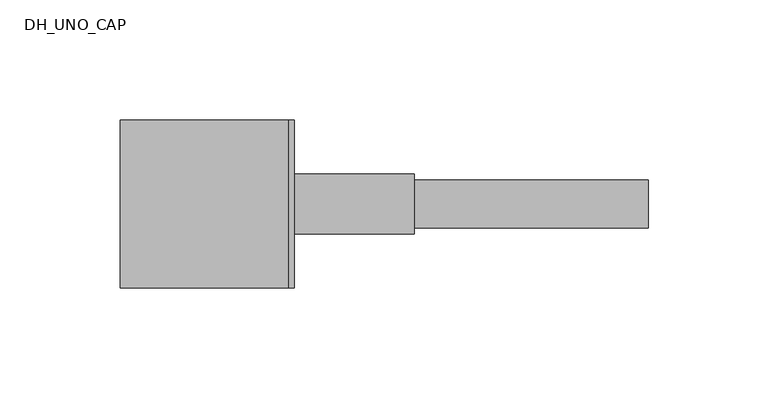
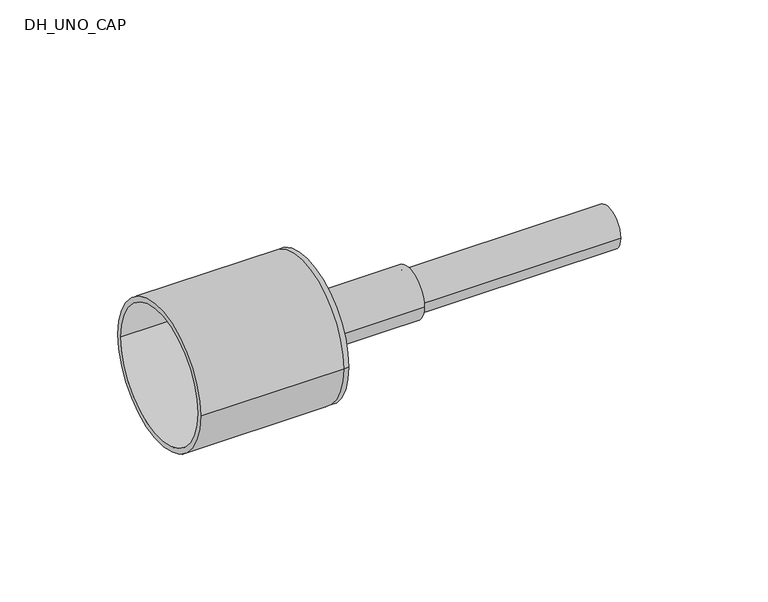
"""IFC4 building model written with IfcOpenShell, lengths in millimetres: pipe fitting geometry, DH_UNO_CAP : INSULPEX UNO 11 COOL - Rubber Cap."""

import ifcopenshell
import ifcopenshell.guid

model = None  # the IFC model being written
_history = None  # IfcOwnerHistory: only IFC2X3 demands one
_inside = {}  # id of a spatial element -> (the spatial element, [elements in it])
_under = {}  # id of a project, library or spatial element -> (it, [spatial elements below it])
_declared = {}  # id of a project -> (the project, [libraries it declares])
_typed = {}  # id of a type object -> (the type object, [elements of that type])
_made_of = {}  # id of a material, layer set ... -> (it, [elements and type objects made of it])


def new_model(schema):
    """Start an empty IFC model of exactly this schema.

    Asked for "IFC4X3", IfcOpenShell would pick the latest addendum, in which some entities
    have other attributes; the version numbers below select the first issue.
    IFC2X3 requires an IfcOwnerHistory on every rooted entity: one is made here for all.
    """
    global model, _history
    if schema == "IFC4X3":
        model = ifcopenshell.file(schema_version=(4, 3, 0, 0))
    else:
        model = ifcopenshell.file(schema=schema)
    _inside.clear()
    _under.clear()
    _declared.clear()
    _typed.clear()
    _made_of.clear()
    _history = None
    if model.schema == "IFC2X3":
        org = make("IfcOrganization", Name="unknown")
        user = make(
            "IfcPersonAndOrganization",
            ThePerson=make("IfcPerson", FamilyName="unknown"),
            TheOrganization=org,
        )
        app = make(
            "IfcApplication",
            ApplicationDeveloper=org,
            Version="unknown",
            ApplicationFullName="unknown",
            ApplicationIdentifier="unknown",
        )
        _history = make(
            "IfcOwnerHistory",
            OwningUser=user,
            OwningApplication=app,
            ChangeAction="ADDED",
            CreationDate=0,
        )
    return model


def make(cls, **values):
    """One entity of the class cls with the attributes given. An attribute that is None is left unset."""
    return model.create_entity(
        cls, **{name: value for name, value in values.items() if value is not None}
    )


def rooted(cls, **values):
    """An entity with a GlobalId (a new one), such as an element, a storey or a relation."""
    return make(cls, GlobalId=ifcopenshell.guid.new(), OwnerHistory=_history, **values)


def si_unit(unit_type, name, prefix=None):
    """IfcSIUnit, for example si_unit("LENGTHUNIT", "METRE", prefix="MILLI")."""
    return make("IfcSIUnit", UnitType=unit_type, Prefix=prefix, Name=name)


def assignment(units):
    """IfcUnitAssignment: the units of a project."""
    return None if units is None else make("IfcUnitAssignment", Units=units)


def point(xyz):
    """IfcCartesianPoint."""
    return None if xyz is None else make("IfcCartesianPoint", Coordinates=xyz)


def direction(xyz):
    """IfcDirection."""
    return None if xyz is None else make("IfcDirection", DirectionRatios=xyz)


def frame(location, z_axis=None, x_axis=None):
    """IfcAxis2Placement3D, a coordinate frame: its origin and axes. An axis left out is left unset."""
    return make(
        "IfcAxis2Placement3D",
        Location=point(location),
        Axis=direction(z_axis),
        RefDirection=direction(x_axis),
    )


def frame_2d(location, x_axis=None):
    """IfcAxis2Placement2D, a coordinate frame in the plane: its origin and x axis."""
    return make(
        "IfcAxis2Placement2D", Location=point(location), RefDirection=direction(x_axis)
    )


def origin():
    """The frame at (0, 0, 0) with its axes left unset."""
    return frame((0.0, 0.0, 0.0))


def origin_2d():
    """The frame at (0, 0) in the plane with its x axis left unset."""
    return frame_2d((0.0, 0.0))


def place(relative_to, where):
    """IfcLocalPlacement: puts the frame where relative to a parent placement (None: the world)."""
    return make(
        "IfcLocalPlacement", PlacementRelTo=relative_to, RelativePlacement=where
    )


def context(
    kind, dimensions, precision=None, world=None, true_north=None, identifier=None
):
    """IfcGeometricRepresentationContext, for example the 3D "Model" context."""
    return make(
        "IfcGeometricRepresentationContext",
        ContextIdentifier=identifier,
        ContextType=kind,
        CoordinateSpaceDimension=dimensions,
        Precision=precision,
        WorldCoordinateSystem=world,
        TrueNorth=true_north,
    )


def project(units=None, contexts=None):
    """IfcProject with its units and contexts."""
    return rooted(
        "IfcProject",
        Name="project",
        RepresentationContexts=contexts,
        UnitsInContext=assignment(units),
    )


def spatial(cls, under=None, at=None, **own):
    """A site, building, storey or space (cls), placed at a placement, below another one or the project."""
    s = rooted(cls, ObjectPlacement=at, **own)
    if under is not None:
        _under.setdefault(under.id(), (under, []))[1].append(s)
    return s


def polyline(points):
    """IfcPolyline through the points."""
    return make("IfcPolyline", Points=[point(p) for p in points])


def circle_curve(where, radius):
    """IfcCircle in the frame where."""
    return make("IfcCircle", Position=where, Radius=radius)


def trimmed(basis, trim1, trim2, sense, master):
    """IfcTrimmedCurve: the piece of a basis curve between two trims."""
    return make(
        "IfcTrimmedCurve",
        BasisCurve=basis,
        Trim1=trim1,
        Trim2=trim2,
        SenseAgreement=sense,
        MasterRepresentation=master,
    )


def segment(curve, same_sense, transition):
    """IfcCompositeCurveSegment."""
    return make(
        "IfcCompositeCurveSegment",
        Transition=transition,
        SameSense=same_sense,
        ParentCurve=curve,
    )


def composite_curve(segments, self_intersect=None):
    """IfcCompositeCurve: segments joined end to end."""
    return make("IfcCompositeCurve", Segments=segments, SelfIntersect=self_intersect)


def outline(outer, holes=None, kind="AREA"):
    """IfcArbitraryClosedProfileDef: a profile drawn as a closed curve; with holes, ...WithVoids."""
    if holes is None:
        return make("IfcArbitraryClosedProfileDef", ProfileType=kind, OuterCurve=outer)
    return make(
        "IfcArbitraryProfileDefWithVoids",
        ProfileType=kind,
        OuterCurve=outer,
        InnerCurves=holes,
    )


def extrude(swept, where, along, depth):
    """IfcExtrudedAreaSolid: the profile swept, set in the frame where, extruded along a direction by depth."""
    return make(
        "IfcExtrudedAreaSolid",
        SweptArea=swept,
        Position=where,
        ExtrudedDirection=direction(along),
        Depth=depth,
    )


def shape(context_of_items, identifier, shape_type, items):
    """IfcShapeRepresentation: the items that make up one representation, for example the "Body"."""
    return make(
        "IfcShapeRepresentation",
        ContextOfItems=context_of_items,
        RepresentationIdentifier=identifier,
        RepresentationType=shape_type,
        Items=items,
    )


def source(mapping_origin, context_of_items, identifier, shape_type, items):
    """IfcRepresentationMap: a shape defined once, which mapped items show again and again."""
    return make(
        "IfcRepresentationMap",
        MappingOrigin=mapping_origin,
        MappedRepresentation=shape(context_of_items, identifier, shape_type, items),
    )


def transform(
    local_origin,
    x_axis=None,
    y_axis=None,
    z_axis=None,
    scale=None,
    scale2=None,
    scale3=None,
    uniform=True,
):
    """IfcCartesianTransformationOperator3D, or its non-uniform kind. x_axis, y_axis, z_axis: its Axis1, 2, 3."""
    if uniform:
        return make(
            "IfcCartesianTransformationOperator3D",
            Axis1=direction(x_axis),
            Axis2=direction(y_axis),
            LocalOrigin=point(local_origin),
            Scale=scale,
            Axis3=direction(z_axis),
        )
    return make(
        "IfcCartesianTransformationOperator3DnonUniform",
        Axis1=direction(x_axis),
        Axis2=direction(y_axis),
        LocalOrigin=point(local_origin),
        Scale=scale,
        Axis3=direction(z_axis),
        Scale2=scale2,
        Scale3=scale3,
    )


def mapped(mapping_source, mapping_target):
    """IfcMappedItem: shows the shape of a source again, moved by a transform."""
    return make(
        "IfcMappedItem", MappingSource=mapping_source, MappingTarget=mapping_target
    )


def made_of(thing, what):
    """Note that an element or type object is made of a material, layer set ...; save() writes the relation."""
    if what is not None:
        _made_of.setdefault(what.id(), (what, []))[1].append(thing)
    return thing


def element(
    cls,
    number,
    at=None,
    inside=None,
    cuts=None,
    type_object=None,
    material=None,
    context=None,
    identifier="Body",
    shape_type=None,
    held_by="IfcProductDefinitionShape",
    body=None,
    shapes=None,
    **own,
):
    """One element of the class cls, such as IfcWall. Its Tag is "e" and its number.

    at: its placement. inside: the storey or other place that contains it. cuts: it is an
    opening in that element (IfcRelVoidsElement). A single representation is given by context,
    identifier, shape_type and body (its items); several are given by shapes. held_by: the class
    of the entity that holds the representations. save() writes the other relations.
    """
    e = rooted(cls, Tag="e%d" % number, ObjectPlacement=at, **own)
    if body is not None:
        shapes = [shape(context, identifier, shape_type, body)]
    if shapes is not None:
        e.Representation = make(held_by, Representations=shapes)
    if inside is not None:
        _inside.setdefault(inside.id(), (inside, []))[1].append(e)
    if cuts is not None:
        rooted(
            "IfcRelVoidsElement", RelatingBuildingElement=cuts, RelatedOpeningElement=e
        )
    if type_object is not None:
        _typed.setdefault(type_object.id(), (type_object, []))[1].append(e)
    return made_of(e, material)


def aggregate(whole, parts):
    """IfcRelAggregates: a whole, such as a stair, and the parts it consists of."""
    return rooted("IfcRelAggregates", RelatingObject=whole, RelatedObjects=parts)


def save(model, path):
    """Write the relations noted so far, then the file.

    IfcRelAggregates (storeys below a building ...), IfcRelContainedInSpatialStructure (elements
    in a storey), IfcRelDefinesByType, IfcRelAssociatesMaterial and IfcRelDeclares: one each for
    every whole, place, type object, material and project.
    """
    for whole, parts in _under.values():
        aggregate(whole, parts)
    for where, things in _inside.values():
        rooted(
            "IfcRelContainedInSpatialStructure",
            RelatedElements=things,
            RelatingStructure=where,
        )
    for kind, things in _typed.values():
        rooted("IfcRelDefinesByType", RelatedObjects=things, RelatingType=kind)
    for what, things in _made_of.values():
        rooted("IfcRelAssociatesMaterial", RelatedObjects=things, RelatingMaterial=what)
    for by, libraries in _declared.values():
        rooted("IfcRelDeclares", RelatingContext=by, RelatedDefinitions=libraries)
    model.write(path)


def plane_surface(at):
    """IfcPlane: the flat surface through the origin of the frame at, square to its z axis."""
    return make("IfcPlane", Position=at)


def cylinder_surface(at, radius):
    """IfcCylindricalSurface: all points at the distance radius from the z axis of the frame at."""
    return make("IfcCylindricalSurface", Position=at, Radius=radius)


def revolved_surface(curve, axis_point, axis_direction):
    """IfcSurfaceOfRevolution: the curve turned about the line through axis_point along axis_direction."""
    return make(
        "IfcSurfaceOfRevolution",
        SweptCurve=make("IfcArbitraryOpenProfileDef", ProfileType="CURVE", Curve=curve),
        AxisPosition=make("IfcAxis1Placement", Location=point(axis_point), Axis=direction(axis_direction)),
    )


def advanced_brep(points, edges, surfaces, faces):
    """IfcAdvancedBrep: a solid bounded by faces that lie on surfaces and meet in shared edges.

    An edge is (start, end): straight between two places in points (the first is 0);
    or (start, end, curve); or (start, end, curve, False) where it runs against its curve.
    A face is (place in surfaces, loops), or (place, loops, False) where it looks against
    its surface's normal. A loop lists edges by number (the first is 1), with a minus sign
    where the edge is run from its end to its start. The first loop is the outer one.
    """
    corners = [point(p) for p in points]
    vertices = [make("IfcVertexPoint", VertexGeometry=c) for c in corners]
    made = []
    for start, end, *more in edges:
        made.append(
            make(
                "IfcEdgeCurve",
                EdgeStart=vertices[start],
                EdgeEnd=vertices[end],
                EdgeGeometry=more[0] if more else make("IfcPolyline", Points=[corners[start], corners[end]]),
                SameSense=more[1] if len(more) > 1 else True,
            )
        )
    hull = []
    for where, loops, *sense in faces:
        bounds = []
        for j, loop in enumerate(loops):
            ring = [make("IfcOrientedEdge", EdgeElement=made[abs(k) - 1], Orientation=k > 0) for k in loop]
            bounds.append(
                make(
                    "IfcFaceOuterBound" if j == 0 else "IfcFaceBound",
                    Bound=make("IfcEdgeLoop", EdgeList=ring),
                    Orientation=True,
                )
            )
        hull.append(make("IfcAdvancedFace", Bounds=bounds, FaceSurface=surfaces[where], SameSense=sense[0] if sense else True))
    return make("IfcAdvancedBrep", Outer=make("IfcClosedShell", CfsFaces=hull))


def dh_uno_cap_b82545c9(model_context):
    return source(origin(), model_context, "Body", "SolidModel", [
        extrude(outline(composite_curve([segment(trimmed(circle_curve(origin_2d(), 10.0), [point((-10.0, 0.0))], [point((10.0, 0.0))], False, "CARTESIAN"), True, "CONTINUOUS"), segment(trimmed(circle_curve(origin_2d(), 10.0), [point((10.0, 0.0))], [point((-10.0, 0.0))], False, "CARTESIAN"), True, "CONTINUOUS")], self_intersect=False), holes=[composite_curve([segment(trimmed(circle_curve(origin_2d(), 8.1), [point((-8.1, 0.0))], [point((8.1, 0.0))], True, "CARTESIAN"), True, "CONTINUOUS"), segment(trimmed(circle_curve(origin_2d(), 8.1), [point((8.1, 0.0))], [point((-8.1, 0.0))], True, "CARTESIAN"), True, "CONTINUOUS")], self_intersect=False)]), frame((0.0, 0.0, 0.0), z_axis=(1.0, 0.0, 0.0), x_axis=(0.0, 1.0, 0.0)), (0.0, 0.0, 1.0), 150.0),
        advanced_brep(
        [(-70.0, -35.0, 0.0), (-70.0, 35.0, 0.0), (-70.0, -32.5, 0.0), (-70.0, 32.5, 0.0), (0.0, -32.5, 0.0), (0.0, 32.5, 0.0), (0.0, -35.0, 0.0), (0.0, 35.0, 0.0), (0.0, 10.0, 0.0), (0.0, -10.0, 0.0), (2.5, -35.0, 0.0), (2.5, 35.0, 0.0), (2.5, -10.0, 0.0), (2.5, 10.0, 0.0)],
        [
            (0, 1, circle_curve(frame((-70.0, 0.0, 0.0), z_axis=(-1.0, 0.0, 0.0), x_axis=(0.0, 1.0, 0.0)), 35.0)),
            (1, 0, circle_curve(frame((-70.0, 0.0, 0.0), z_axis=(-1.0, 0.0, 0.0), x_axis=(0.0, 1.0, 0.0)), 35.0)),
            (2, 3, circle_curve(frame((-70.0, 0.0, 0.0), z_axis=(1.0, 0.0, 0.0), x_axis=(0.0, 1.0, 0.0)), 32.5)),
            (3, 2, circle_curve(frame((-70.0, 0.0, 0.0), z_axis=(1.0, 0.0, 0.0), x_axis=(0.0, 1.0, 0.0)), 32.5)),
            (2, 4),
            (4, 5, circle_curve(frame((0.0, 0.0, 0.0), z_axis=(1.0, 0.0, 0.0), x_axis=(0.0, 1.0, 0.0)), 32.5)),
            (5, 3),
            (5, 4, circle_curve(frame((0.0, 0.0, 0.0), z_axis=(1.0, 0.0, 0.0), x_axis=(0.0, 1.0, 0.0)), 32.5)),
            (0, 6),
            (6, 7, circle_curve(frame((0.0, 0.0, 0.0), z_axis=(-1.0, 0.0, 0.0), x_axis=(0.0, 1.0, 0.0)), 35.0)),
            (7, 1),
            (7, 6, circle_curve(frame((0.0, 0.0, 0.0), z_axis=(-1.0, 0.0, 0.0), x_axis=(0.0, 1.0, 0.0)), 35.0)),
            (8, 9, circle_curve(frame((0.0, 0.0, 0.0), z_axis=(1.0, 0.0, 0.0), x_axis=(0.0, 1.0, 0.0)), 10.0)),
            (9, 8, circle_curve(frame((0.0, 0.0, 0.0), z_axis=(1.0, 0.0, 0.0), x_axis=(0.0, 1.0, 0.0)), 10.0)),
            (10, 11, circle_curve(frame((2.5, 0.0, 0.0), z_axis=(1.0, 0.0, 0.0), x_axis=(0.0, 1.0, 0.0)), 35.0)),
            (11, 10, circle_curve(frame((2.5, 0.0, 0.0), z_axis=(1.0, 0.0, 0.0), x_axis=(0.0, 1.0, 0.0)), 35.0)),
            (12, 13, circle_curve(frame((2.5, 0.0, 0.0), z_axis=(-1.0, 0.0, 0.0), x_axis=(0.0, 1.0, 0.0)), 10.0)),
            (13, 12, circle_curve(frame((2.5, 0.0, 0.0), z_axis=(-1.0, 0.0, 0.0), x_axis=(0.0, 1.0, 0.0)), 10.0)),
            (11, 7),
            (6, 10),
            (8, 13),
            (12, 9),
        ],
        [
            plane_surface(frame((-70.0, 0.0, 0.0), z_axis=(-1.0, 0.0, 0.0), x_axis=(0.0, 0.0, 1.0))),
            revolved_surface(polyline([(0.0, 32.5, 0.0), (-70.0, 32.5, 0.0)]), (-70.0, 0.0, 0.0), (1.0, 0.0, 0.0)),
            cylinder_surface(frame((-70.0, 0.0, 0.0), z_axis=(-1.0, 0.0, 0.0), x_axis=(0.0, 1.0, 0.0)), 35.0),
            plane_surface(frame((0.0, 0.0, 0.0), z_axis=(-1.0, 0.0, 0.0), x_axis=(0.0, 0.0, 1.0))),
            plane_surface(frame((2.5, 0.0, 0.0), z_axis=(1.0, 0.0, 0.0), x_axis=(0.0, 0.0, 1.0))),
            cylinder_surface(frame((0.0, 0.0, 0.0), z_axis=(-1.0, 0.0, 0.0), x_axis=(0.0, 1.0, 0.0)), 35.0),
            revolved_surface(polyline([(0.0, 10.0, 0.0), (2.5, 10.0, 0.0)]), (0.0, 0.0, 0.0), (-1.0, 0.0, 0.0)),
        ],
        [
            (0, [[1, 2], [3, 4]]),
            (1, [[-3, 5, 6, 7]]),
            (1, [[-4, -7, 8, -5]]),
            (2, [[-1, 9, 10, 11]]),
            (2, [[-2, -11, 12, -9]]),
            (3, [[-6, -8], [13, 14]]),
            (4, [[15, 16], [17, 18]]),
            (5, [[-16, 19, -10, 20]]),
            (5, [[-15, -20, -12, -19]]),
            (6, [[21, -17, 22, -13]]),
            (6, [[-21, -14, -22, -18]]),
        ],
    ),
        extrude(outline(composite_curve([segment(trimmed(circle_curve(origin_2d(), 12.5), [point((-12.5, 0.0))], [point((12.5, 0.0))], False, "CARTESIAN"), True, "CONTINUOUS"), segment(trimmed(circle_curve(origin_2d(), 12.5), [point((12.5, 0.0))], [point((-12.5, 0.0))], False, "CARTESIAN"), True, "CONTINUOUS")], self_intersect=False), holes=[composite_curve([segment(trimmed(circle_curve(origin_2d(), 10.0), [point((-10.0, 0.0))], [point((10.0, 0.0))], True, "CARTESIAN"), True, "CONTINUOUS"), segment(trimmed(circle_curve(origin_2d(), 10.0), [point((10.0, 0.0))], [point((-10.0, 0.0))], True, "CARTESIAN"), True, "CONTINUOUS")], self_intersect=False)]), frame((2.5, 0.0, 0.0), z_axis=(1.0, 0.0, 0.0), x_axis=(0.0, 1.0, 0.0)), (0.0, 0.0, 1.0), 50.0),
    ])


if __name__ == "__main__":
    model = new_model("IFC4")
    model_context = context("Model", 3, world=origin())
    ifc_project = project(units=[si_unit("LENGTHUNIT", "METRE", prefix="MILLI")], contexts=[model_context])
    site = spatial("IfcSite", under=ifc_project)
    building = spatial("IfcBuilding", under=site)
    placement = place(None, origin())
    dh_uno_cap_shape = dh_uno_cap_b82545c9(model_context)
    element("IfcPipeFitting", 1, ObjectType="DH_UNO_CAP : INSULPEX UNO 11 COOL - Rubber Cap", at=placement, inside=building, context=model_context, shape_type="MappedRepresentation", body=[
        mapped(dh_uno_cap_shape, transform((0.0, 0.0, 0.0), x_axis=(1.0, 0.0, 0.0), y_axis=(0.0, 1.0, 0.0), z_axis=(0.0, 0.0, 1.0))),
    ])
    save(model, "model.ifc")
